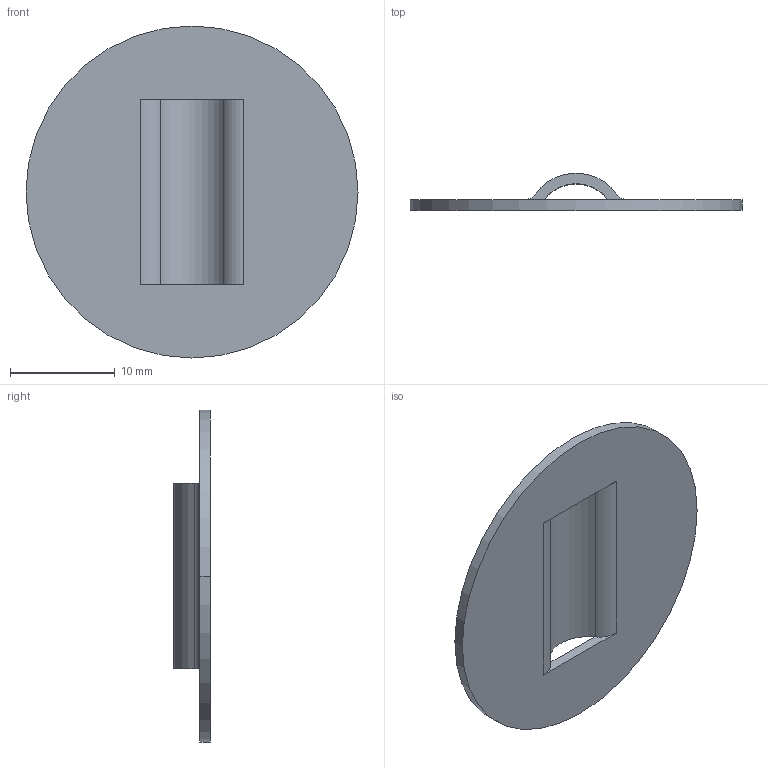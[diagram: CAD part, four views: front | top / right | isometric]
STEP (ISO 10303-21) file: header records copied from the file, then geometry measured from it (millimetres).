
FILE_DESCRIPTION (( 'STEP AP203' ), '1' );
FILE_NAME ('1301782-10.STEP', '2024-11-14T17:35:29', ( '' ), ( '' ), 'SwSTEP 2.0', 'SolidWorks 2024', '' );
FILE_SCHEMA (( 'CONFIG_CONTROL_DESIGN' ));
Length unit declared in the file: inch
Products named in the file (1): 1301782-10
Bounding box: 31.75 x 3.54 x 31.75 mm (x, y, z)
Volume: 834.5 mm3; surface area: 1776.5 mm2
Topology: 1 solids, 1 shells, 14 faces, 38 edges, 24 vertices
Faces by surface type: cylinder 8, plane 6
Entity records: 537 total; most frequent: DIRECTION 88, CARTESIAN_POINT 77, ORIENTED_EDGE 76, EDGE_CURVE 38, AXIS2_PLACEMENT_3D 35, VERTEX_POINT 24, CIRCLE 20, LINE 18
